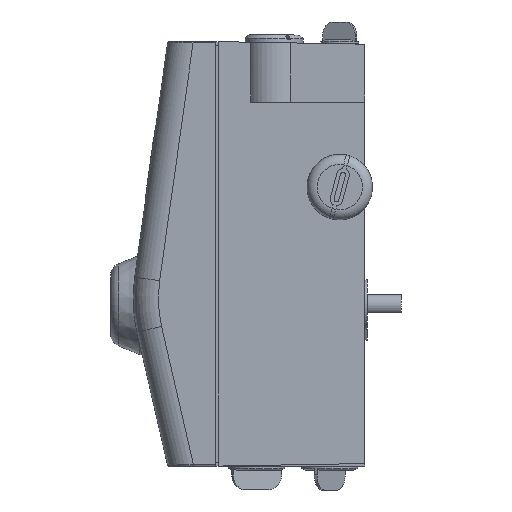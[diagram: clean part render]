
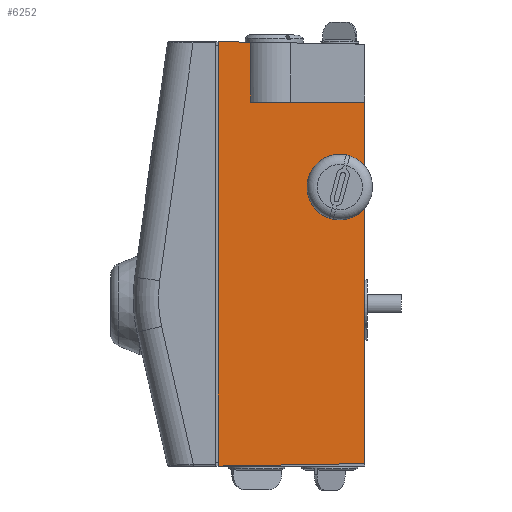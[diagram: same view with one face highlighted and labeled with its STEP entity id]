
A CAD part, front view. The second image highlights one B-rep face of the part: STEP entity #6252.
In plain terms, the highlighted planar face has unit normal (0.026, -1, 0).
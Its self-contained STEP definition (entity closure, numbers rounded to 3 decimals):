
#1200=CARTESIAN_POINT('',(-4.082,-41.355,110.75));
#1201=VERTEX_POINT('',#1200);
#1202=CARTESIAN_POINT('',(-10.0,-41.508,110.75));
#1203=DIRECTION('',(-0.026,1.,0.0));
#1204=DIRECTION('',(-1.,-0.026,0.0));
#1205=AXIS2_PLACEMENT_3D('',#1202,#1203,#1204);
#1206=ELLIPSE('',#1205,5.919,5.918);
#1207=EDGE_CURVE('',#1201,#1201,#1206,.T.);
#5932=CARTESIAN_POINT('',(0.0,-41.25,144.5));
#5933=VERTEX_POINT('',#5932);
#5940=CARTESIAN_POINT('',(0.,-41.25,1.0));
#5941=VERTEX_POINT('',#5940);
#5942=CARTESIAN_POINT('',(0.0,-41.25,1.));
#5943=DIRECTION('',(0.0,0.0,1.0));
#5944=VECTOR('',#5943,143.5);
#5945=LINE('',#5942,#5944);
#5946=EDGE_CURVE('',#5941,#5933,#5945,.T.);
#6030=CARTESIAN_POINT('',(-58.25,-42.75,0.0));
#6031=VERTEX_POINT('',#6030);
#6032=CARTESIAN_POINT('',(-58.25,-42.75,0.0));
#6033=DIRECTION('',(1.,0.026,0.017));
#6034=VECTOR('',#6033,58.278);
#6035=LINE('',#6032,#6034);
#6036=EDGE_CURVE('',#6031,#5941,#6035,.T.);
#6060=CARTESIAN_POINT('',(-58.25,-42.75,168.5));
#6061=VERTEX_POINT('',#6060);
#6068=CARTESIAN_POINT('',(-45.369,-42.418,168.279));
#6069=VERTEX_POINT('',#6068);
#6070=CARTESIAN_POINT('',(-45.369,-42.418,168.279));
#6071=DIRECTION('',(-1.,-0.026,0.017));
#6072=VECTOR('',#6071,12.887);
#6073=LINE('',#6070,#6072);
#6074=EDGE_CURVE('',#6069,#6061,#6073,.T.);
#6195=CARTESIAN_POINT('',(-45.369,-42.418,144.5));
#6196=VERTEX_POINT('',#6195);
#6197=CARTESIAN_POINT('',(-45.369,-42.418,144.5));
#6198=DIRECTION('',(0.0,0.0,1.0));
#6199=VECTOR('',#6198,23.779);
#6200=LINE('',#6197,#6199);
#6201=EDGE_CURVE('',#6196,#6069,#6200,.T.);
#6220=CARTESIAN_POINT('',(0.,-41.25,144.5));
#6221=DIRECTION('',(-1.,-0.026,0.0));
#6222=VECTOR('',#6221,45.384);
#6223=LINE('',#6220,#6222);
#6224=EDGE_CURVE('',#5933,#6196,#6223,.T.);
#6231=CARTESIAN_POINT('',(0.0,-41.25,0.0));
#6232=DIRECTION('',(0.026,-1.,0.0));
#6233=DIRECTION('',(0.0,0.0,-1.0));
#6234=AXIS2_PLACEMENT_3D('',#6231,#6232,#6233);
#6235=PLANE('',#6234);
#6236=ORIENTED_EDGE('',*,*,#6036,.T.);
#6237=ORIENTED_EDGE('',*,*,#5946,.T.);
#6238=ORIENTED_EDGE('',*,*,#6224,.T.);
#6239=ORIENTED_EDGE('',*,*,#6201,.T.);
#6240=ORIENTED_EDGE('',*,*,#6074,.T.);
#6241=CARTESIAN_POINT('',(-58.25,-42.75,0.0));
#6242=DIRECTION('',(0.0,0.0,1.0));
#6243=VECTOR('',#6242,168.5);
#6244=LINE('',#6241,#6243);
#6245=EDGE_CURVE('',#6031,#6061,#6244,.T.);
#6246=ORIENTED_EDGE('',*,*,#6245,.F.);
#6247=EDGE_LOOP('',(#6236,#6237,#6238,#6239,#6240,#6246));
#6248=FACE_OUTER_BOUND('',#6247,.T.);
#6249=ORIENTED_EDGE('',*,*,#1207,.T.);
#6250=EDGE_LOOP('',(#6249));
#6251=FACE_BOUND('',#6250,.T.);
#6252=ADVANCED_FACE('',(#6248,#6251),#6235,.T.);
